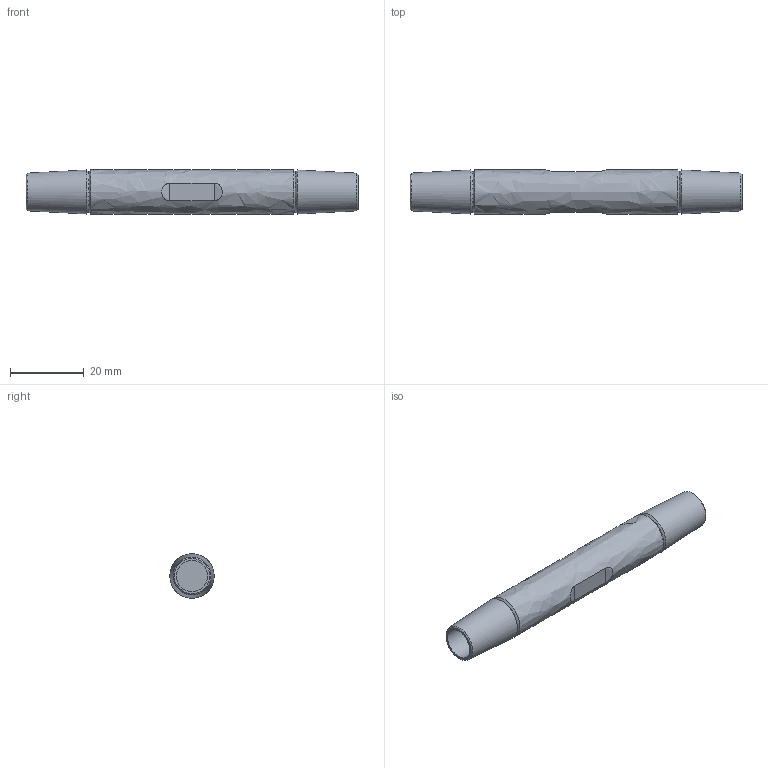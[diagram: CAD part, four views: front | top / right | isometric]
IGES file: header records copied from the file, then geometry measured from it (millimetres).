
Global section: file name: 520-008-MUF; native system: Autodesk Inventor 2016; preprocessor: unknown; author: Administrator; date: 20200630.130918; units: centimetre
Bounding box: 90 x 12 x 12 mm (x, y, z)
Volume: 8129.2 mm3; surface area: 4162.4 mm2
Topology: 1 solids, 1 shells, 21 faces, 53 edges, 37 vertices
Faces by surface type: bspline 21
